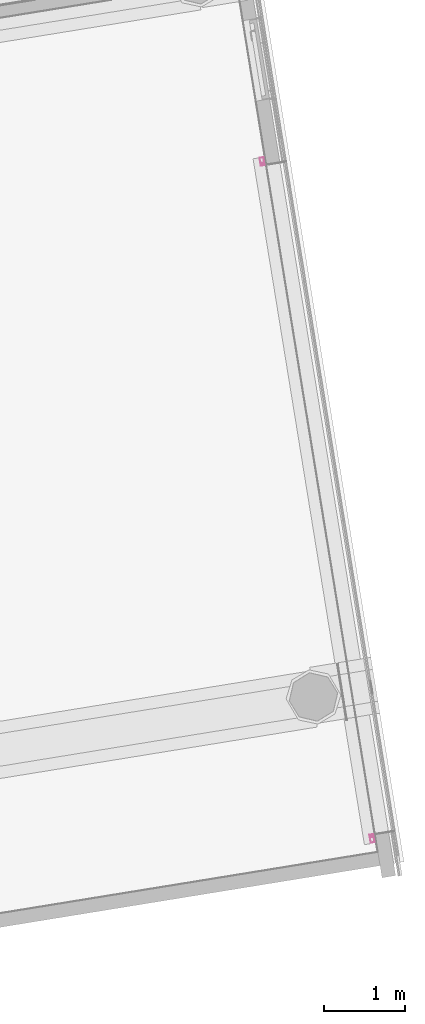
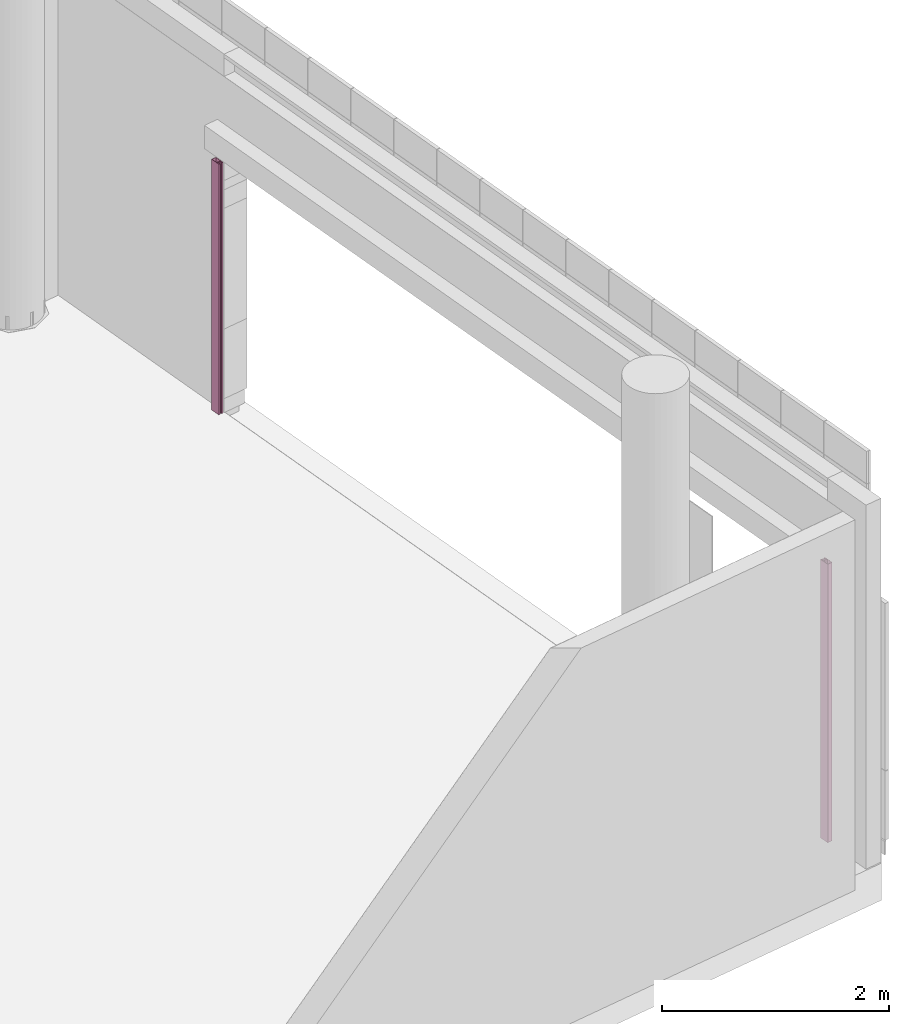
# One storey, part 37 of 38: 2 furnishings.
"""IFC2X3 building model written with IfcOpenShell, lengths in millimetres."""

from ifc_helpers import new_model, entity, si_unit, converted_unit, derived_unit, direction, frame, origin, origin_with_axes, place, context, subcontext, project, spatial, polyline, outline, extrude, source, transform, mapped, material, type_object, element, save


model = new_model("IFC2X3")

# Units and contexts
model_context = context("Model", 3, precision=0.01, world=origin(), true_north=direction((6.12323399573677e-17, 1.0)))
plan_context = context("Plan", 3, precision=1e-05, world=origin_with_axes())
body_context = subcontext(model_context, "Body", "Model", "MODEL_VIEW")
ifc_project = project(units=[converted_unit("PLANEANGLEUNIT", "DEGREE", entity("IfcPositiveLengthMeasure", 0.0174532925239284), si_unit("PLANEANGLEUNIT", "RADIAN"), dimensions=[0, 0, 0, 0, 0, 0, 0]), si_unit("AREAUNIT", "SQUARE_METRE"), si_unit("LENGTHUNIT", "METRE", prefix="MILLI"), si_unit("MASSUNIT", "GRAM", prefix="KILO"), si_unit("POWERUNIT", "WATT"), si_unit("PRESSUREUNIT", "PASCAL", prefix="KILO"), si_unit("FORCEUNIT", "NEWTON", prefix="KILO"), si_unit("ELECTRICVOLTAGEUNIT", "VOLT"), si_unit("ELECTRICCURRENTUNIT", "AMPERE"), si_unit("THERMODYNAMICTEMPERATUREUNIT", "DEGREE_CELSIUS"), si_unit("TIMEUNIT", "SECOND"), si_unit("VOLUMEUNIT", "CUBIC_METRE"), derived_unit("LINEARVELOCITYUNIT", [(si_unit("LENGTHUNIT", "METRE"), 1), (si_unit("TIMEUNIT", "SECOND"), -1)]), derived_unit("VOLUMETRICFLOWRATEUNIT", [(si_unit("VOLUMEUNIT", "CUBIC_METRE"), 1), (si_unit("TIMEUNIT", "SECOND"), -1)]), derived_unit("THERMALTRANSMITTANCEUNIT", [(si_unit("POWERUNIT", "WATT"), 1), (si_unit("THERMODYNAMICTEMPERATUREUNIT", "KELVIN"), -1), (si_unit("AREAUNIT", "SQUARE_METRE"), -1)]), derived_unit("SOUNDPRESSUREUNIT", [(si_unit("PRESSUREUNIT", "PASCAL"), 1)])], contexts=[model_context, plan_context])

# Site, building, storey
site_placement = place(None, frame((-0.00071070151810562, 0.00438415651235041, 0.0), z_axis=(0.0, 0.0, 1.0), x_axis=(-0.160236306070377, 0.987078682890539, 0.0)))
site = spatial("IfcSite", under=ifc_project, at=site_placement, Name="Default", CompositionType="ELEMENT")
building_placement = place(site_placement, origin_with_axes())
building = spatial("IfcBuilding", under=site, at=building_placement, Name="TOO", CompositionType="ELEMENT")
storey_placement = place(building_placement, frame((0.0, 0.0, 50999.9999999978), z_axis=(0.0, 0.0, 1.0), x_axis=(1.0, 0.0, 0.0)))
storey = spatial("IfcBuildingStorey", under=building, at=storey_placement, Name="Nivå D-H01", CompositionType="ELEMENT", Elevation=50999.9999999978)

# Furnishings
ifc_material = material(Name="A290 - Laminat - Hvit")
furniture_type_1 = type_object("IfcFurnitureType", Name="Branngardin Skinne:Branngardin Skinne", AssemblyPlace="NOTDEFINED", material=ifc_material)
shared_shape_1 = source(origin(), body_context, "Body", "SweptSolid", [
    extrude(outline(polyline([(-44.6666666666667, -25.0), (55.3333333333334, -25.0), (55.3333333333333, 25.0), (-44.6666666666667, 25.0), (-44.6666666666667, 7.49999999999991), (-9.6666666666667, 7.50000000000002), (-9.6666666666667, 23.0), (53.3333333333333, 23.0), (53.3333333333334, -23.0), (-9.66666666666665, -23.0), (-9.66666666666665, -7.49999999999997), (-44.6666666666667, -7.50000000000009), (-44.6666666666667, -25.0)]), holes=[polyline([(-42.6666666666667, 23.0), (-11.6666666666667, 23.0), (-11.6666666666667, 9.50000000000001), (-42.6666666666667, 9.49999999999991), (-42.6666666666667, 23.0)]), polyline([(-42.6666666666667, -9.50000000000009), (-11.6666666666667, -9.49999999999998), (-11.6666666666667, -23.0), (-42.6666666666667, -23.0), (-42.6666666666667, -9.50000000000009)])]), frame((55.3333333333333, -25.0, 0.0), z_axis=(0.0, 0.0, 1.0), x_axis=(-1.0, 0.0, 0.0)), (0.0, 0.0, 1.0), 2700.0),
])
furnishing_1_placement = place(storey_placement, frame((777577.619644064, -603963.693702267, 0.0), z_axis=(0.0, 0.0, 1.0), x_axis=(-1.0, 0.0, 0.0)))
element("IfcFurnishingElement", 1, at=furnishing_1_placement, inside=storey, type_object=furniture_type_1, material=ifc_material, Name="Branngardin Skinne:Branngardin Skinne", ObjectType="Branngardin Skinne:Branngardin Skinne", context=body_context, shape_type="MappedRepresentation", body=[
    mapped(shared_shape_1, transform((0.0, 0.0, 0.0), scale=1.0)),
])
furniture_type_2 = type_object("IfcFurnitureType", Name="Branngardin Skinne:Branngardin Skinne", AssemblyPlace="NOTDEFINED", material=ifc_material)
shared_shape_2 = source(origin(), body_context, "Body", "SweptSolid", [
    extrude(outline(polyline([(-44.6666666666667, -25.0), (55.3333333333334, -25.0), (55.3333333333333, 25.0), (-44.6666666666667, 25.0), (-44.6666666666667, 7.49999999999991), (-9.6666666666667, 7.50000000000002), (-9.6666666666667, 23.0), (53.3333333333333, 23.0), (53.3333333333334, -23.0), (-9.66666666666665, -23.0), (-9.66666666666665, -7.49999999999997), (-44.6666666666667, -7.50000000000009), (-44.6666666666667, -25.0)]), holes=[polyline([(-42.6666666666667, 23.0), (-11.6666666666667, 23.0), (-11.6666666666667, 9.50000000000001), (-42.6666666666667, 9.49999999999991), (-42.6666666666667, 23.0)]), polyline([(-42.6666666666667, -9.50000000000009), (-11.6666666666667, -9.49999999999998), (-11.6666666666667, -23.0), (-42.6666666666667, -23.0), (-42.6666666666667, -9.50000000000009)])]), frame((55.3333333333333, -25.0, 0.0), z_axis=(0.0, 0.0, 1.0), x_axis=(-1.0, 0.0, 0.0)), (0.0, 0.0, 1.0), 3000.0),
])
furnishing_2_placement = place(storey_placement, frame((768980.119644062, -603913.693702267, 0.0), z_axis=(0.0, 0.0, 1.0), x_axis=(1.0, 0.0, 0.0)))
element("IfcFurnishingElement", 2, at=furnishing_2_placement, inside=storey, type_object=furniture_type_2, material=ifc_material, Name="Branngardin Skinne:Branngardin Skinne", ObjectType="Branngardin Skinne:Branngardin Skinne", context=body_context, shape_type="MappedRepresentation", body=[
    mapped(shared_shape_2, transform((0.0, 0.0, 0.0), scale=1.0)),
])

save(model, "model.ifc")
